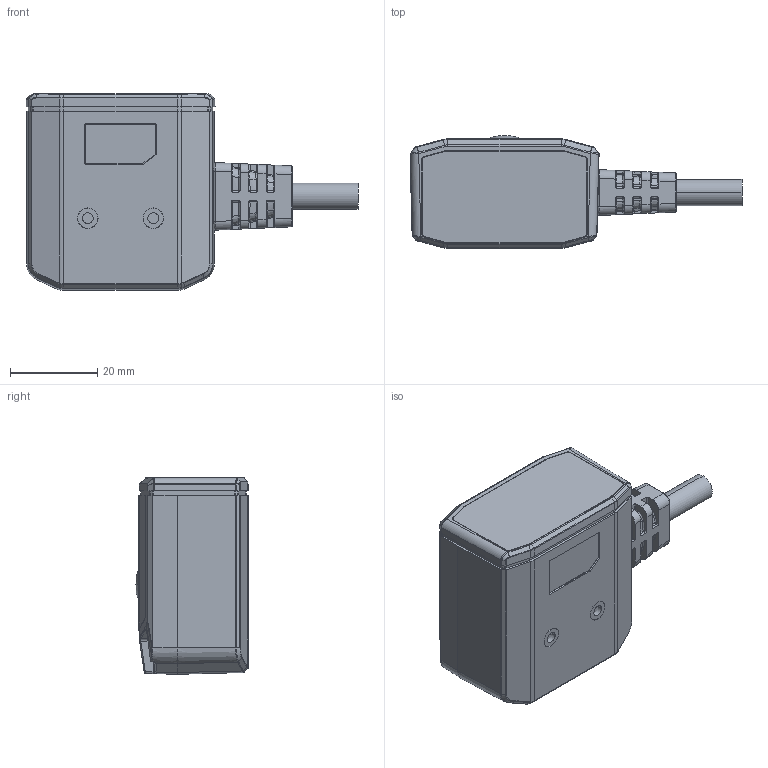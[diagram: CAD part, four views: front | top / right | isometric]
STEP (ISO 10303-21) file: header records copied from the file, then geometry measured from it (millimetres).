
FILE_DESCRIPTION((''),'2;1');
FILE_NAME('PRT0005','2023-11-27T15:24:01',('yangxiaobing6'),(''),'CREO PARAMETRIC BY PTC INC, 2020044','CREO PARAMETRIC BY PTC INC, 2020044','');
FILE_SCHEMA(('CONFIG_CONTROL_DESIGN','SHAPE_APPEARANCE_LAYERS_GROUPS'));
Products named in the file (1): PRT0005
Bounding box: 75.99 x 25.8 x 44.99 mm (x, y, z)
Volume: 46394.2 mm3; surface area: 37782.3 mm2
Topology: 2 solids, 18 shells, 2794 faces, 7100 edges, 4371 vertices
Faces by surface type: plane 1114, cylinder 653, bspline 523, cone 271, torus 115, sphere 114, extrusion 4
Entity records: 110619 total; most frequent: CARTESIAN_POINT 40060, ORIENTED_EDGE 14164, DIRECTION 11490, EDGE_CURVE 7082, VERTEX_POINT 4371, AXIS2_PLACEMENT_3D 3870, VECTOR 3750, LINE 3746
